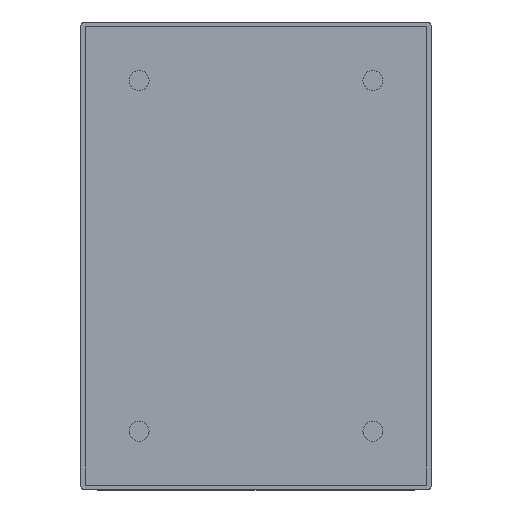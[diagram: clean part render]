
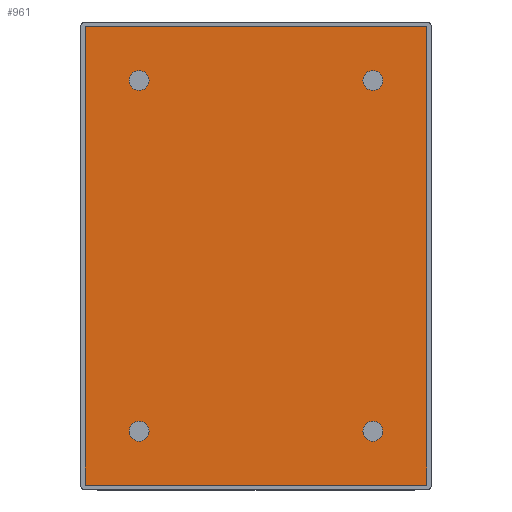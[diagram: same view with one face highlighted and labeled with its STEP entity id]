
A CAD part, top view. The second image highlights one B-rep face of the part: STEP entity #961.
In plain terms, the highlighted planar face has unit normal (0, 0, 1).
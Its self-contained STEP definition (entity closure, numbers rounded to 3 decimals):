
#18=FACE_BOUND('',#281,.T.);
#19=FACE_BOUND('',#282,.T.);
#20=FACE_BOUND('',#283,.T.);
#21=FACE_BOUND('',#284,.T.);
#86=LINE('',#4498,#138);
#90=LINE('',#4506,#142);
#93=LINE('',#4512,#145);
#96=LINE('',#4517,#148);
#138=VECTOR('',#1253,10.);
#142=VECTOR('',#1259,10.);
#145=VECTOR('',#1264,10.);
#148=VECTOR('',#1269,10.);
#165=PLANE('',#1057);
#222=FACE_OUTER_BOUND('',#280,.T.);
#280=EDGE_LOOP('',(#866,#867,#868,#869));
#281=EDGE_LOOP('',(#870));
#282=EDGE_LOOP('',(#871));
#283=EDGE_LOOP('',(#872));
#284=EDGE_LOOP('',(#873));
#326=CIRCLE('',#1042,4.263);
#328=CIRCLE('',#1045,4.263);
#330=CIRCLE('',#1048,4.263);
#332=CIRCLE('',#1051,4.263);
#446=VERTEX_POINT('',#4472);
#448=VERTEX_POINT('',#4478);
#450=VERTEX_POINT('',#4484);
#452=VERTEX_POINT('',#4490);
#454=VERTEX_POINT('',#4496);
#455=VERTEX_POINT('',#4497);
#458=VERTEX_POINT('',#4505);
#460=VERTEX_POINT('',#4511);
#578=EDGE_CURVE('',#446,#446,#326,.T.);
#581=EDGE_CURVE('',#448,#448,#328,.T.);
#584=EDGE_CURVE('',#450,#450,#330,.T.);
#587=EDGE_CURVE('',#452,#452,#332,.T.);
#590=EDGE_CURVE('',#454,#455,#86,.T.);
#594=EDGE_CURVE('',#455,#458,#90,.T.);
#597=EDGE_CURVE('',#458,#460,#93,.T.);
#600=EDGE_CURVE('',#460,#454,#96,.T.);
#866=ORIENTED_EDGE('',*,*,#600,.T.);
#867=ORIENTED_EDGE('',*,*,#590,.T.);
#868=ORIENTED_EDGE('',*,*,#594,.T.);
#869=ORIENTED_EDGE('',*,*,#597,.T.);
#870=ORIENTED_EDGE('',*,*,#578,.T.);
#871=ORIENTED_EDGE('',*,*,#581,.T.);
#872=ORIENTED_EDGE('',*,*,#584,.T.);
#873=ORIENTED_EDGE('',*,*,#587,.T.);
#961=ADVANCED_FACE('',(#222,#18,#19,#20,#21),#165,.T.);
#1042=AXIS2_PLACEMENT_3D('',#4473,#1225,#1226);
#1045=AXIS2_PLACEMENT_3D('',#4479,#1232,#1233);
#1048=AXIS2_PLACEMENT_3D('',#4485,#1239,#1240);
#1051=AXIS2_PLACEMENT_3D('',#4491,#1246,#1247);
#1057=AXIS2_PLACEMENT_3D('',#4519,#1271,#1272);
#1225=DIRECTION('center_axis',(0.,0.,-1.));
#1226=DIRECTION('ref_axis',(1.,0.,0.));
#1232=DIRECTION('center_axis',(0.,0.,-1.));
#1233=DIRECTION('ref_axis',(1.,0.,0.));
#1239=DIRECTION('center_axis',(0.,0.,-1.));
#1240=DIRECTION('ref_axis',(1.,0.,0.));
#1246=DIRECTION('center_axis',(0.,0.,-1.));
#1247=DIRECTION('ref_axis',(1.,0.,0.));
#1253=DIRECTION('',(-1.,0.,0.));
#1259=DIRECTION('',(0.,-1.,0.));
#1264=DIRECTION('',(1.,0.,0.));
#1269=DIRECTION('',(0.,1.,0.));
#1271=DIRECTION('center_axis',(0.,0.,1.));
#1272=DIRECTION('ref_axis',(-1.,0.,0.));
#4472=CARTESIAN_POINT('',(-54.263,-75.,80.));
#4473=CARTESIAN_POINT('Origin',(-50.,-75.,80.));
#4478=CARTESIAN_POINT('',(-54.263,75.,80.));
#4479=CARTESIAN_POINT('Origin',(-50.,75.,80.));
#4484=CARTESIAN_POINT('',(45.737,75.,80.));
#4485=CARTESIAN_POINT('Origin',(50.,75.,80.));
#4490=CARTESIAN_POINT('',(45.737,-75.,80.));
#4491=CARTESIAN_POINT('Origin',(50.,-75.,80.));
#4496=CARTESIAN_POINT('',(73.,98.,80.));
#4497=CARTESIAN_POINT('',(-73.,98.,80.));
#4498=CARTESIAN_POINT('',(73.,98.,80.));
#4505=CARTESIAN_POINT('',(-73.,-98.,80.));
#4506=CARTESIAN_POINT('',(-73.,98.,80.));
#4511=CARTESIAN_POINT('',(73.,-98.,80.));
#4512=CARTESIAN_POINT('',(-73.,-98.,80.));
#4517=CARTESIAN_POINT('',(73.,-98.,80.));
#4519=CARTESIAN_POINT('Origin',(0.,0.,80.));
